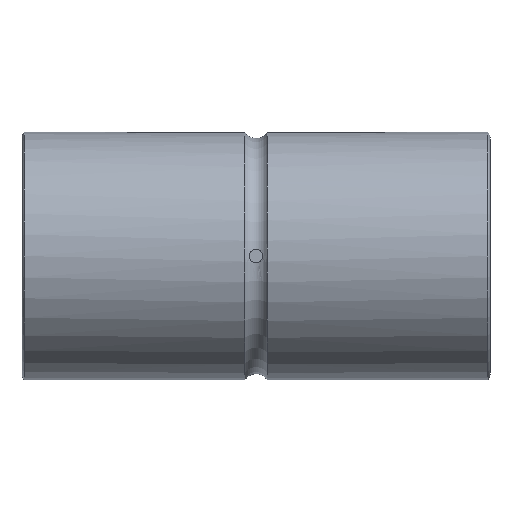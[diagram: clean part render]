
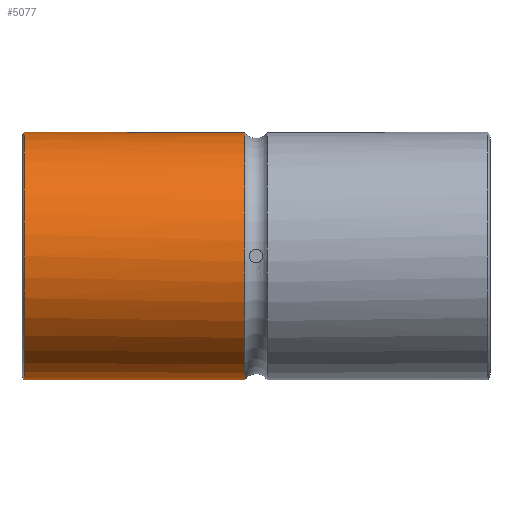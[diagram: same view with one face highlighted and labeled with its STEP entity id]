
A CAD part, front view. The second image highlights one B-rep face of the part: STEP entity #5077.
In plain terms, the highlighted cylindrical face has radius 18.5 mm (diameter 37 mm), a full revolution.
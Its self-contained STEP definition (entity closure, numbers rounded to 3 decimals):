
#44=B_SPLINE_CURVE_WITH_KNOTS('',3,(#8279,#8280,#8281,#8282,#8283,#8284,
#8285),.UNSPECIFIED.,.F.,.F.,(4,1,1,1,4),(0.,0.002,0.004,
0.006,0.008),.UNSPECIFIED.);
#460=LINE('',#8288,#974);
#461=LINE('',#8289,#975);
#974=VECTOR('',#6587,1000.);
#975=VECTOR('',#6588,1000.);
#1866=ORIENTED_EDGE('',*,*,#3208,.T.);
#1867=ORIENTED_EDGE('',*,*,#3209,.T.);
#1868=ORIENTED_EDGE('',*,*,#3201,.F.);
#1869=ORIENTED_EDGE('',*,*,#3210,.T.);
#1870=ORIENTED_EDGE('',*,*,#3207,.T.);
#3201=EDGE_CURVE('',#3865,#3866,#4226,.T.);
#3207=EDGE_CURVE('',#3871,#3871,#4228,.T.);
#3208=EDGE_CURVE('',#3872,#3873,#44,.T.);
#3209=EDGE_CURVE('',#3873,#3866,#460,.T.);
#3210=EDGE_CURVE('',#3865,#3872,#461,.F.);
#3865=VERTEX_POINT('',#8236);
#3866=VERTEX_POINT('',#8237);
#3871=VERTEX_POINT('',#8277);
#3872=VERTEX_POINT('',#8286);
#3873=VERTEX_POINT('',#8287);
#4226=CIRCLE('',#5555,18.5);
#4228=CIRCLE('',#5558,18.5);
#4393=EDGE_LOOP('',(#1866,#1867,#1868,#1869));
#4394=EDGE_LOOP('',(#1870));
#4691=FACE_BOUND('',#4393,.T.);
#4692=FACE_BOUND('',#4394,.T.);
#4940=CYLINDRICAL_SURFACE('',#5559,18.5);
#5077=ADVANCED_FACE('',(#4691,#4692),#4940,.T.);
#5555=AXIS2_PLACEMENT_3D('',#8235,#6577,#6578);
#5558=AXIS2_PLACEMENT_3D('',#8276,#6583,#6584);
#5559=AXIS2_PLACEMENT_3D('',#8278,#6585,#6586);
#6577=DIRECTION('',(1.,0.,0.));
#6578=DIRECTION('',(0.,0.,-1.));
#6583=DIRECTION('',(1.,0.,0.));
#6584=DIRECTION('',(0.,0.,-1.));
#6585=DIRECTION('',(1.,0.,0.));
#6586=DIRECTION('',(0.,0.,-1.));
#6587=DIRECTION('',(1.,0.,0.));
#6588=DIRECTION('',(1.,0.,0.));
#8235=CARTESIAN_POINT('',(-1.65,0.,0.));
#8236=CARTESIAN_POINT('',(-1.65,18.33,2.5));
#8237=CARTESIAN_POINT('',(-1.65,18.33,-2.5));
#8276=CARTESIAN_POINT('',(-34.66,0.,0.));
#8277=CARTESIAN_POINT('',(-34.66,0.,-18.5));
#8278=CARTESIAN_POINT('',(35.,0.,0.));
#8279=CARTESIAN_POINT('',(-14.,18.33,2.5));
#8280=CARTESIAN_POINT('',(-14.661,18.33,2.5));
#8281=CARTESIAN_POINT('',(-15.955,18.416,1.958));
#8282=CARTESIAN_POINT('',(-16.772,18.542,0.003));
#8283=CARTESIAN_POINT('',(-15.957,18.416,-1.958));
#8284=CARTESIAN_POINT('',(-14.661,18.33,-2.5));
#8285=CARTESIAN_POINT('',(-14.,18.33,-2.5));
#8286=CARTESIAN_POINT('',(-14.,18.33,2.5));
#8287=CARTESIAN_POINT('',(-14.,18.33,-2.5));
#8288=CARTESIAN_POINT('',(35.,18.33,-2.5));
#8289=CARTESIAN_POINT('',(35.,18.33,2.5));
